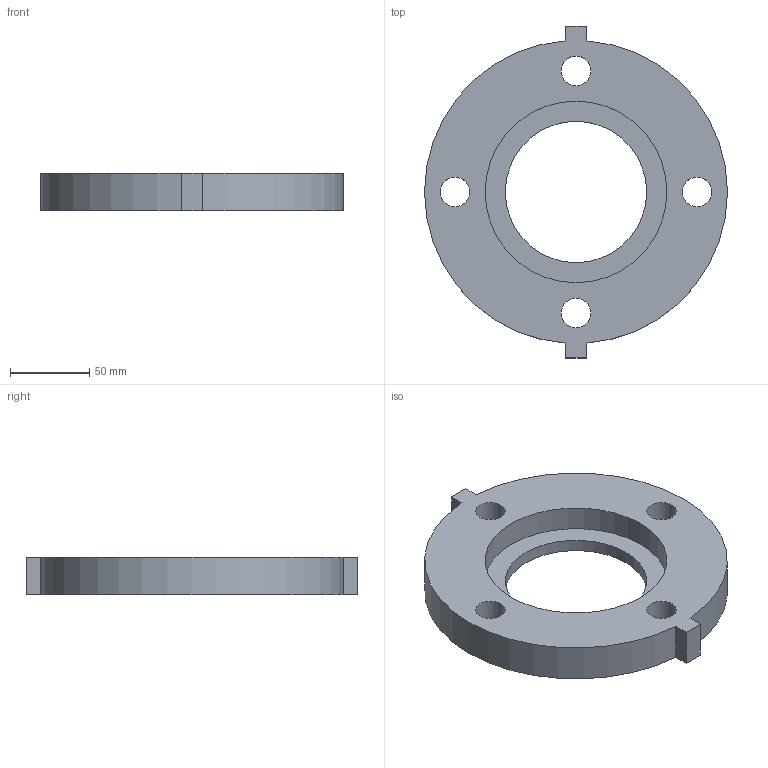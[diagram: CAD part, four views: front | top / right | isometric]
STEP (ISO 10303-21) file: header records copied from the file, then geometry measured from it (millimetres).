
FILE_DESCRIPTION(/* description */ ('VIC FLANGE ADAPTER STYLE 441','CAx-IF Rec.Pracs.---Representation and Presentation of Product Manufacturing Information (PMI)---4.0---2014-10-13'),/* implementation_level */ '2;1');
FILE_NAME(/* name */ 'C:\Users\kkamble\AppData\Roaming\Autodesk\ApplicationPlugins\Back Up\Victaulic_SS-OGS_Flange Adapter_CL 150_Style 441 (OGSxFLG)\Victaulic_SS-OGS_Flange Adapter_CL 150_Style 441 (OGSxFLG)_3 (80).stp',/* time_stamp */ '2020-08-27T09:29:45+06:00',/* author */ ('mchristi'),/* organization */ ('Victaulic'),/* preprocessor_version */ 'ST-DEVELOPER v17.2',/* originating_system */ 'Autodesk Inventor 2019',/* authorisation */ '');
FILE_SCHEMA (('AP242_MANAGED_MODEL_BASED_3D_ENGINEERING_MIM_LF { 1 0 10303 442 1 1 4 }'));
Length unit declared in the file: inch
Products named in the file (1): 441-03.0
Bounding box: 190.5 x 208.79 x 23.88 mm (x, y, z)
Volume: 447594.8 mm3; surface area: 71582.1 mm2
Topology: 1 solids, 1 shells, 17 faces, 42 edges, 28 vertices
Faces by surface type: plane 9, cylinder 8
Full cylindrical faces by diameter (mm): 18.542 x4, 88.9 x1, 114.3 x1
Entity records: 681 total; most frequent: DIRECTION 120, CARTESIAN_POINT 105, ORIENTED_EDGE 84, AXIS2_PLACEMENT_3D 47, EDGE_CURVE 42, EDGE_LOOP 28, VERTEX_POINT 28, LINE 26
